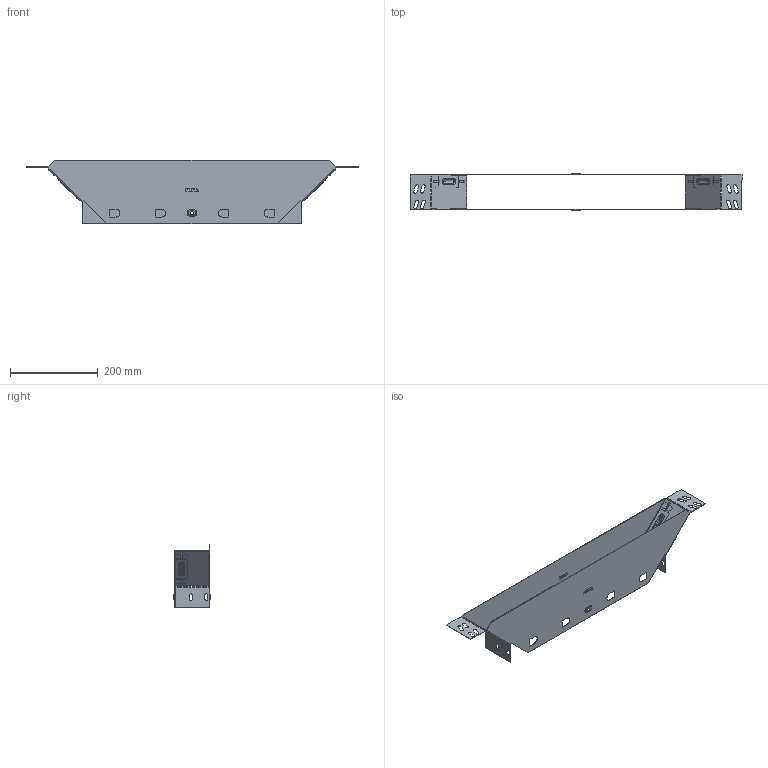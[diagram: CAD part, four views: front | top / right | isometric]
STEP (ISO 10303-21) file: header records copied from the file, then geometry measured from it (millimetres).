
FILE_DESCRIPTION (( 'STEP AP214' ), '1' );
FILE_NAME ('tn8050008_捘.STEP', '2019-06-10T08:01:58', ( '砐錪賧瘔蠈錪 Windows' ), ( '' ), 'SwSTEP 2.0', 'SolidWorks 2018', '' );
FILE_SCHEMA (( 'AUTOMOTIVE_DESIGN' ));
Length unit declared in the file: millimetre
Products named in the file (1): tn8050008_捘
Bounding box: 756.02 x 83.8 x 144 mm (x, y, z)
Volume: 146194 mm3; surface area: 370027.8 mm2
Topology: 2 solids, 2 shells, 666 faces, 1882 edges, 1196 vertices
Faces by surface type: plane 400, cylinder 200, torus 48, bspline 18
Entity records: 22389 total; most frequent: CARTESIAN_POINT 4703, ORIENTED_EDGE 3764, DIRECTION 3616, EDGE_CURVE 1882, LINE 1374, VECTOR 1374, VERTEX_POINT 1196, AXIS2_PLACEMENT_3D 1121
